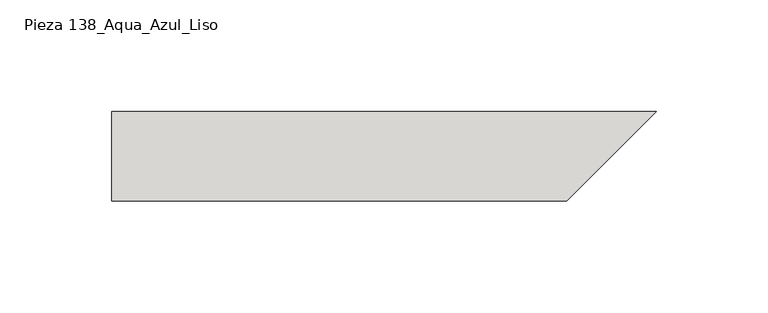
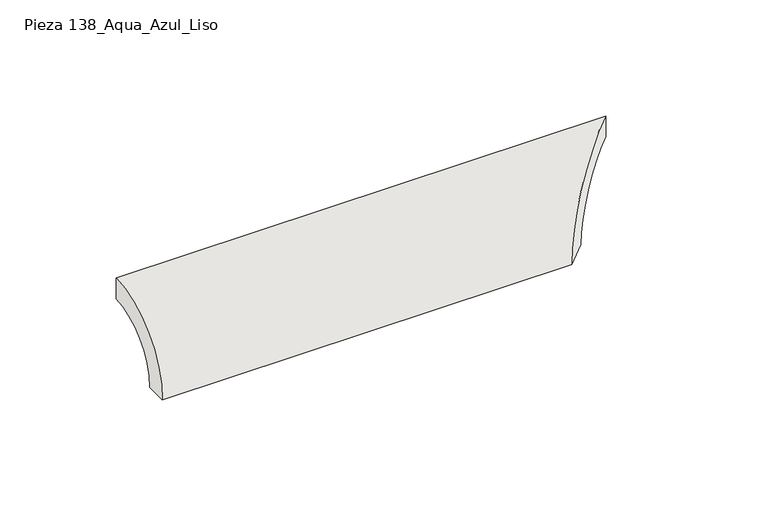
"""IFC4 building model written with IfcOpenShell, lengths in millimetres: slab geometry, ROSA GRES_138 (corte) : Pieza 138_Aqua_Azul_Liso."""

from ifc_helpers import new_model, si_unit, frame, origin, place, context, project, spatial, polyline, circle_curve, ellipse_curve, source, transform, mapped, element, save
from ifc_brep_helpers import plane_surface, cylinder_surface, revolved_surface, advanced_brep


def pieza_138_aqua_azul_liso_7f7dfdbc(model_context):
    return source(origin(), model_context, "Body", "AdvancedBrep", [
        advanced_brep(
        [(0.0, 0.0, 29.0), (0.0, -29.0, 0.0), (0.0, -40.0, 0.0), (0.0, 0.0, 40.0), (243.5, 0.0, 40.0), (243.5, 0.0, 29.0), (214.5, -29.0, 0.0), (203.5, -40.0, 0.0)],
        [
            (0, 1, circle_curve(frame((0.0, 0.0, 0.0), z_axis=(1.0, 0.0, 0.0), x_axis=(0.0, -1.0, 0.0)), 29.0)),
            (1, 2),
            (2, 3, circle_curve(frame((0.0, 0.0, 0.0), z_axis=(-1.0, 0.0, 0.0), x_axis=(0.0, -1.0, 0.0)), 40.0)),
            (3, 0),
            (3, 4),
            (4, 5),
            (5, 0),
            (1, 6),
            (6, 7),
            (7, 2),
            (7, 4, ellipse_curve(frame((243.5, 0.0, 0.0), z_axis=(-0.7071067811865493, 0.7071067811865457, 0.0), x_axis=(-0.7071067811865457, -0.7071067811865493, 0.0)), 56.5685425, 40.0)),
            (5, 6, ellipse_curve(frame((243.5, 0.0, 0.0), z_axis=(0.7071067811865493, -0.7071067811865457, 0.0), x_axis=(0.7071067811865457, 0.7071067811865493, 0.0)), 41.0121933, 29.0)),
        ],
        [
            plane_surface(frame((0.0, 0.0, 0.0), z_axis=(-1.0, 0.0, 0.0), x_axis=(0.0, 0.0, 1.0))),
            plane_surface(frame((0.0, 0.0, 29.0), z_axis=(0.0, 1.0, 0.0), x_axis=(1.0, 0.0, 0.0))),
            plane_surface(frame((0.0, -40.0, 0.0), z_axis=(0.0, 0.0, -1.0), x_axis=(1.0, 0.0, 0.0))),
            cylinder_surface(frame((0.0, 0.0, 0.0), z_axis=(-1.0, 0.0, 0.0), x_axis=(0.0, -1.0, 0.0)), 40.0),
            revolved_surface(polyline([(272.4999999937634, -29.0, 0.0), (0.0, -29.0, 0.0)]), (0.0, 0.0, 0.0), (1.0, 0.0, 0.0)),
            plane_surface(frame((203.0, -40.5, 104.9871832), z_axis=(0.7071067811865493, -0.7071067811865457, 0.0), x_axis=(0.0, 0.0, -1.0))),
        ],
        [
            (0, [[1, 2, 3, 4]]),
            (1, [[5, 6, 7, -4]]),
            (2, [[8, 9, 10, -2]]),
            (3, [[-10, 11, -5, -3]]),
            (4, [[-7, 12, -8, -1]]),
            (5, [[-11, -9, -12, -6]]),
        ],
    ),
    ])


if __name__ == "__main__":
    model = new_model("IFC4")
    model_context = context("Model", 3, world=origin())
    ifc_project = project(units=[si_unit("LENGTHUNIT", "METRE", prefix="MILLI")], contexts=[model_context])
    site = spatial("IfcSite", under=ifc_project)
    building = spatial("IfcBuilding", under=site)
    placement = place(None, origin())
    pieza_138_aqua_azul_liso_shape = pieza_138_aqua_azul_liso_7f7dfdbc(model_context)
    element("IfcSlab", 1, ObjectType="ROSA GRES_138 (corte) : Pieza 138_Aqua_Azul_Liso", at=placement, inside=building, context=model_context, shape_type="MappedRepresentation", body=[
        mapped(pieza_138_aqua_azul_liso_shape, transform((0.0, 0.0, 0.0), x_axis=(1.0, 0.0, 0.0), y_axis=(0.0, 1.0, 0.0), z_axis=(0.0, 0.0, 1.0))),
    ])
    save(model, "model.ifc")
